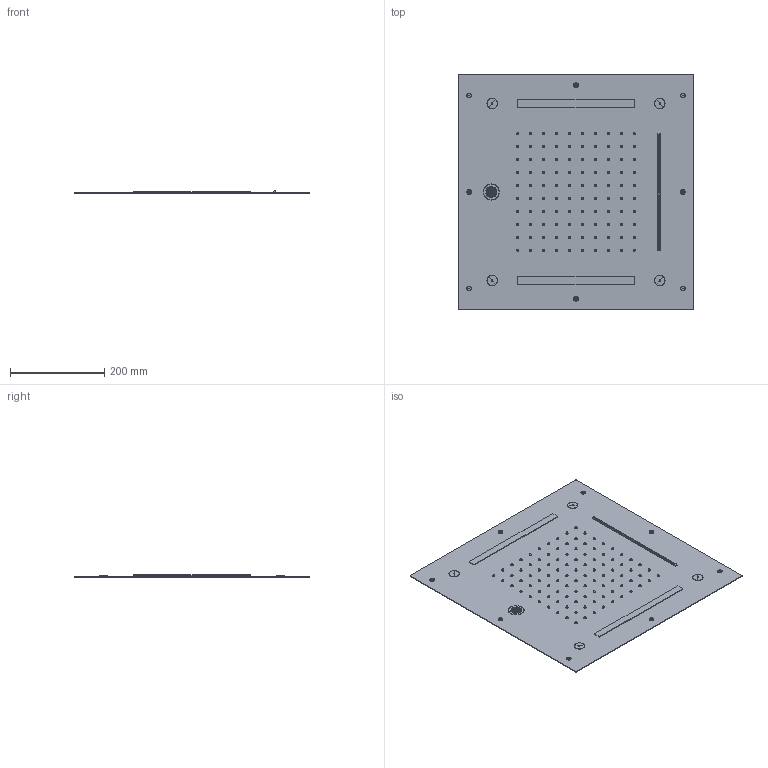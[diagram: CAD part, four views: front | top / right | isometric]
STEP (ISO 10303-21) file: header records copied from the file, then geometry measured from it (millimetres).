
FILE_DESCRIPTION((''),'2;1');
FILE_NAME('90938_SW0001','2021-04-13T15:23:40',('carloff'),(''),'CREO PARAMETRIC BY PTC INC, 2018100','CREO PARAMETRIC BY PTC INC, 2018100','');
FILE_SCHEMA(('CONFIG_CONTROL_DESIGN'));
Products named in the file (1): 90938_SW0001
Bounding box: 500 x 500 x 5.96 mm (x, y, z)
Volume: 388058.4 mm3; surface area: 521745.5 mm2
Topology: 110 solids, 110 shells, 2376 faces, 5488 edges, 3340 vertices
Faces by surface type: torus 1076, cylinder 918, plane 338, cone 24, bspline 20
Entity records: 74367 total; most frequent: CARTESIAN_POINT 15695, DIRECTION 14332, ORIENTED_EDGE 10952, AXIS2_PLACEMENT_3D 6548, EDGE_CURVE 5476, CIRCLE 4192, VERTEX_POINT 3340, EDGE_LOOP 3152
